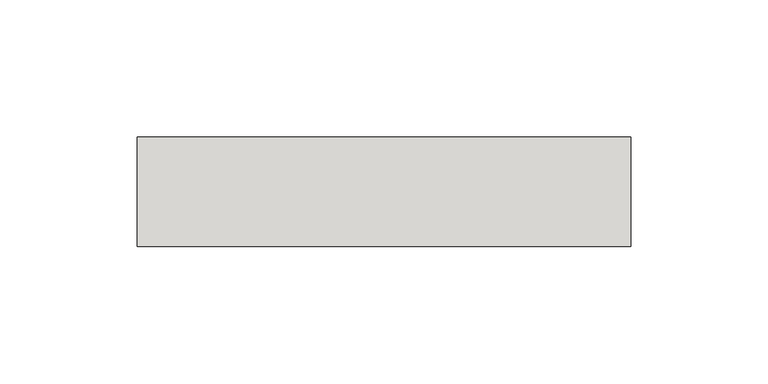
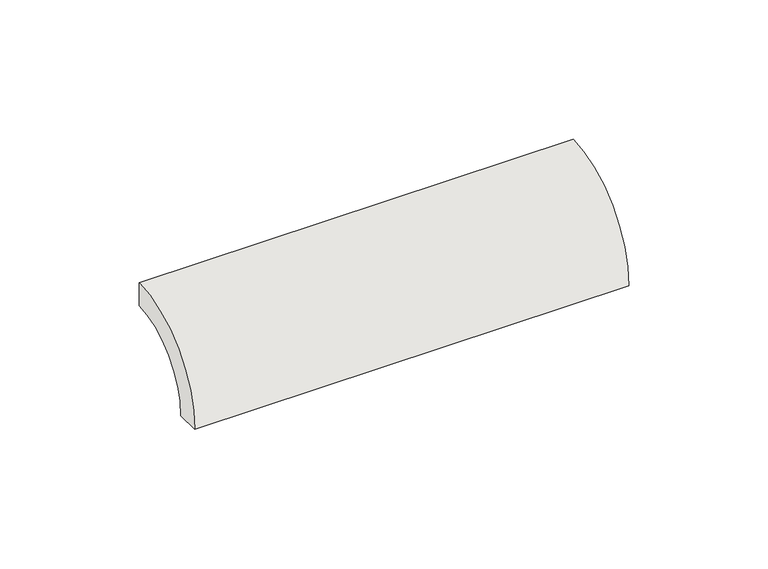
"""IFC4 building model written with IfcOpenShell, lengths in millimetres: slab geometry, ROSA GRES_138 : Pieza 138_Aqua_Marino_Anti-Slip."""

import ifcopenshell
import ifcopenshell.guid

model = None  # the IFC model being written
_history = None  # IfcOwnerHistory: only IFC2X3 demands one
_inside = {}  # id of a spatial element -> (the spatial element, [elements in it])
_under = {}  # id of a project, library or spatial element -> (it, [spatial elements below it])
_declared = {}  # id of a project -> (the project, [libraries it declares])
_typed = {}  # id of a type object -> (the type object, [elements of that type])
_made_of = {}  # id of a material, layer set ... -> (it, [elements and type objects made of it])


def new_model(schema):
    """Start an empty IFC model of exactly this schema.

    Asked for "IFC4X3", IfcOpenShell would pick the latest addendum, in which some entities
    have other attributes; the version numbers below select the first issue.
    IFC2X3 requires an IfcOwnerHistory on every rooted entity: one is made here for all.
    """
    global model, _history
    if schema == "IFC4X3":
        model = ifcopenshell.file(schema_version=(4, 3, 0, 0))
    else:
        model = ifcopenshell.file(schema=schema)
    _inside.clear()
    _under.clear()
    _declared.clear()
    _typed.clear()
    _made_of.clear()
    _history = None
    if model.schema == "IFC2X3":
        org = make("IfcOrganization", Name="unknown")
        user = make(
            "IfcPersonAndOrganization",
            ThePerson=make("IfcPerson", FamilyName="unknown"),
            TheOrganization=org,
        )
        app = make(
            "IfcApplication",
            ApplicationDeveloper=org,
            Version="unknown",
            ApplicationFullName="unknown",
            ApplicationIdentifier="unknown",
        )
        _history = make(
            "IfcOwnerHistory",
            OwningUser=user,
            OwningApplication=app,
            ChangeAction="ADDED",
            CreationDate=0,
        )
    return model


def make(cls, **values):
    """One entity of the class cls with the attributes given. An attribute that is None is left unset."""
    return model.create_entity(
        cls, **{name: value for name, value in values.items() if value is not None}
    )


def rooted(cls, **values):
    """An entity with a GlobalId (a new one), such as an element, a storey or a relation."""
    return make(cls, GlobalId=ifcopenshell.guid.new(), OwnerHistory=_history, **values)


def si_unit(unit_type, name, prefix=None):
    """IfcSIUnit, for example si_unit("LENGTHUNIT", "METRE", prefix="MILLI")."""
    return make("IfcSIUnit", UnitType=unit_type, Prefix=prefix, Name=name)


def assignment(units):
    """IfcUnitAssignment: the units of a project."""
    return None if units is None else make("IfcUnitAssignment", Units=units)


def point(xyz):
    """IfcCartesianPoint."""
    return None if xyz is None else make("IfcCartesianPoint", Coordinates=xyz)


def direction(xyz):
    """IfcDirection."""
    return None if xyz is None else make("IfcDirection", DirectionRatios=xyz)


def frame(location, z_axis=None, x_axis=None):
    """IfcAxis2Placement3D, a coordinate frame: its origin and axes. An axis left out is left unset."""
    return make(
        "IfcAxis2Placement3D",
        Location=point(location),
        Axis=direction(z_axis),
        RefDirection=direction(x_axis),
    )


def frame_2d(location, x_axis=None):
    """IfcAxis2Placement2D, a coordinate frame in the plane: its origin and x axis."""
    return make(
        "IfcAxis2Placement2D", Location=point(location), RefDirection=direction(x_axis)
    )


def origin():
    """The frame at (0, 0, 0) with its axes left unset."""
    return frame((0.0, 0.0, 0.0))


def origin_2d():
    """The frame at (0, 0) in the plane with its x axis left unset."""
    return frame_2d((0.0, 0.0))


def place(relative_to, where):
    """IfcLocalPlacement: puts the frame where relative to a parent placement (None: the world)."""
    return make(
        "IfcLocalPlacement", PlacementRelTo=relative_to, RelativePlacement=where
    )


def context(
    kind, dimensions, precision=None, world=None, true_north=None, identifier=None
):
    """IfcGeometricRepresentationContext, for example the 3D "Model" context."""
    return make(
        "IfcGeometricRepresentationContext",
        ContextIdentifier=identifier,
        ContextType=kind,
        CoordinateSpaceDimension=dimensions,
        Precision=precision,
        WorldCoordinateSystem=world,
        TrueNorth=true_north,
    )


def project(units=None, contexts=None):
    """IfcProject with its units and contexts."""
    return rooted(
        "IfcProject",
        Name="project",
        RepresentationContexts=contexts,
        UnitsInContext=assignment(units),
    )


def spatial(cls, under=None, at=None, **own):
    """A site, building, storey or space (cls), placed at a placement, below another one or the project."""
    s = rooted(cls, ObjectPlacement=at, **own)
    if under is not None:
        _under.setdefault(under.id(), (under, []))[1].append(s)
    return s


def polyline(points):
    """IfcPolyline through the points."""
    return make("IfcPolyline", Points=[point(p) for p in points])


def circle_curve(where, radius):
    """IfcCircle in the frame where."""
    return make("IfcCircle", Position=where, Radius=radius)


def trimmed(basis, trim1, trim2, sense, master):
    """IfcTrimmedCurve: the piece of a basis curve between two trims."""
    return make(
        "IfcTrimmedCurve",
        BasisCurve=basis,
        Trim1=trim1,
        Trim2=trim2,
        SenseAgreement=sense,
        MasterRepresentation=master,
    )


def segment(curve, same_sense, transition):
    """IfcCompositeCurveSegment."""
    return make(
        "IfcCompositeCurveSegment",
        Transition=transition,
        SameSense=same_sense,
        ParentCurve=curve,
    )


def composite_curve(segments, self_intersect=None):
    """IfcCompositeCurve: segments joined end to end."""
    return make("IfcCompositeCurve", Segments=segments, SelfIntersect=self_intersect)


def outline(outer, holes=None, kind="AREA"):
    """IfcArbitraryClosedProfileDef: a profile drawn as a closed curve; with holes, ...WithVoids."""
    if holes is None:
        return make("IfcArbitraryClosedProfileDef", ProfileType=kind, OuterCurve=outer)
    return make(
        "IfcArbitraryProfileDefWithVoids",
        ProfileType=kind,
        OuterCurve=outer,
        InnerCurves=holes,
    )


def extrude(swept, where, along, depth):
    """IfcExtrudedAreaSolid: the profile swept, set in the frame where, extruded along a direction by depth."""
    return make(
        "IfcExtrudedAreaSolid",
        SweptArea=swept,
        Position=where,
        ExtrudedDirection=direction(along),
        Depth=depth,
    )


def shape(context_of_items, identifier, shape_type, items):
    """IfcShapeRepresentation: the items that make up one representation, for example the "Body"."""
    return make(
        "IfcShapeRepresentation",
        ContextOfItems=context_of_items,
        RepresentationIdentifier=identifier,
        RepresentationType=shape_type,
        Items=items,
    )


def source(mapping_origin, context_of_items, identifier, shape_type, items):
    """IfcRepresentationMap: a shape defined once, which mapped items show again and again."""
    return make(
        "IfcRepresentationMap",
        MappingOrigin=mapping_origin,
        MappedRepresentation=shape(context_of_items, identifier, shape_type, items),
    )


def transform(
    local_origin,
    x_axis=None,
    y_axis=None,
    z_axis=None,
    scale=None,
    scale2=None,
    scale3=None,
    uniform=True,
):
    """IfcCartesianTransformationOperator3D, or its non-uniform kind. x_axis, y_axis, z_axis: its Axis1, 2, 3."""
    if uniform:
        return make(
            "IfcCartesianTransformationOperator3D",
            Axis1=direction(x_axis),
            Axis2=direction(y_axis),
            LocalOrigin=point(local_origin),
            Scale=scale,
            Axis3=direction(z_axis),
        )
    return make(
        "IfcCartesianTransformationOperator3DnonUniform",
        Axis1=direction(x_axis),
        Axis2=direction(y_axis),
        LocalOrigin=point(local_origin),
        Scale=scale,
        Axis3=direction(z_axis),
        Scale2=scale2,
        Scale3=scale3,
    )


def mapped(mapping_source, mapping_target):
    """IfcMappedItem: shows the shape of a source again, moved by a transform."""
    return make(
        "IfcMappedItem", MappingSource=mapping_source, MappingTarget=mapping_target
    )


def made_of(thing, what):
    """Note that an element or type object is made of a material, layer set ...; save() writes the relation."""
    if what is not None:
        _made_of.setdefault(what.id(), (what, []))[1].append(thing)
    return thing


def element(
    cls,
    number,
    at=None,
    inside=None,
    cuts=None,
    type_object=None,
    material=None,
    context=None,
    identifier="Body",
    shape_type=None,
    held_by="IfcProductDefinitionShape",
    body=None,
    shapes=None,
    **own,
):
    """One element of the class cls, such as IfcWall. Its Tag is "e" and its number.

    at: its placement. inside: the storey or other place that contains it. cuts: it is an
    opening in that element (IfcRelVoidsElement). A single representation is given by context,
    identifier, shape_type and body (its items); several are given by shapes. held_by: the class
    of the entity that holds the representations. save() writes the other relations.
    """
    e = rooted(cls, Tag="e%d" % number, ObjectPlacement=at, **own)
    if body is not None:
        shapes = [shape(context, identifier, shape_type, body)]
    if shapes is not None:
        e.Representation = make(held_by, Representations=shapes)
    if inside is not None:
        _inside.setdefault(inside.id(), (inside, []))[1].append(e)
    if cuts is not None:
        rooted(
            "IfcRelVoidsElement", RelatingBuildingElement=cuts, RelatedOpeningElement=e
        )
    if type_object is not None:
        _typed.setdefault(type_object.id(), (type_object, []))[1].append(e)
    return made_of(e, material)


def aggregate(whole, parts):
    """IfcRelAggregates: a whole, such as a stair, and the parts it consists of."""
    return rooted("IfcRelAggregates", RelatingObject=whole, RelatedObjects=parts)


def save(model, path):
    """Write the relations noted so far, then the file.

    IfcRelAggregates (storeys below a building ...), IfcRelContainedInSpatialStructure (elements
    in a storey), IfcRelDefinesByType, IfcRelAssociatesMaterial and IfcRelDeclares: one each for
    every whole, place, type object, material and project.
    """
    for whole, parts in _under.values():
        aggregate(whole, parts)
    for where, things in _inside.values():
        rooted(
            "IfcRelContainedInSpatialStructure",
            RelatedElements=things,
            RelatingStructure=where,
        )
    for kind, things in _typed.values():
        rooted("IfcRelDefinesByType", RelatedObjects=things, RelatingType=kind)
    for what, things in _made_of.values():
        rooted("IfcRelAssociatesMaterial", RelatedObjects=things, RelatingMaterial=what)
    for by, libraries in _declared.values():
        rooted("IfcRelDeclares", RelatingContext=by, RelatedDefinitions=libraries)
    model.write(path)


def slab_8c1f2233(model_context):
    return source(origin(), model_context, "Body", "SweptSolid", [
        extrude(outline(composite_curve([segment(polyline([(0.0, 40.0), (0.0, 30.0265886)]), True, "CONTINUOUS"), segment(trimmed(circle_curve(frame_2d((-0.0044453, 0.0044453)), 30.0221435), [point((0.0, 30.0265886))], [point((-30.0265886, 0.0))], True, "CARTESIAN"), True, "CONTINUOUS"), segment(polyline([(-30.0265886, 0.0), (-40.0, 0.0)]), True, "CONTINUOUS"), segment(trimmed(circle_curve(origin_2d(), 40.0), [point((-40.0, 0.0))], [point((0.0, 40.0))], False, "CARTESIAN"), True, "CONTINUOUS")], self_intersect=False)), frame((0.0, 0.0, 0.0), z_axis=(1.0, 0.0, 0.0), x_axis=(0.0, 1.0, 0.0)), (0.0, 0.0, 1.0), 180.0),
    ])


if __name__ == "__main__":
    model = new_model("IFC4")
    model_context = context("Model", 3, world=origin())
    ifc_project = project(units=[si_unit("LENGTHUNIT", "METRE", prefix="MILLI")], contexts=[model_context])
    site = spatial("IfcSite", under=ifc_project)
    building = spatial("IfcBuilding", under=site)
    placement = place(None, origin())
    slab_shape = slab_8c1f2233(model_context)
    element("IfcSlab", 1, ObjectType="ROSA GRES_138 : Pieza 138_Aqua_Marino_Anti-Slip", at=placement, inside=building, context=model_context, shape_type="MappedRepresentation", body=[
        mapped(slab_shape, transform((0.0, 0.0, 0.0), x_axis=(1.0, 0.0, 0.0), y_axis=(0.0, 1.0, 0.0), z_axis=(0.0, 0.0, 1.0))),
    ])
    save(model, "model.ifc")
